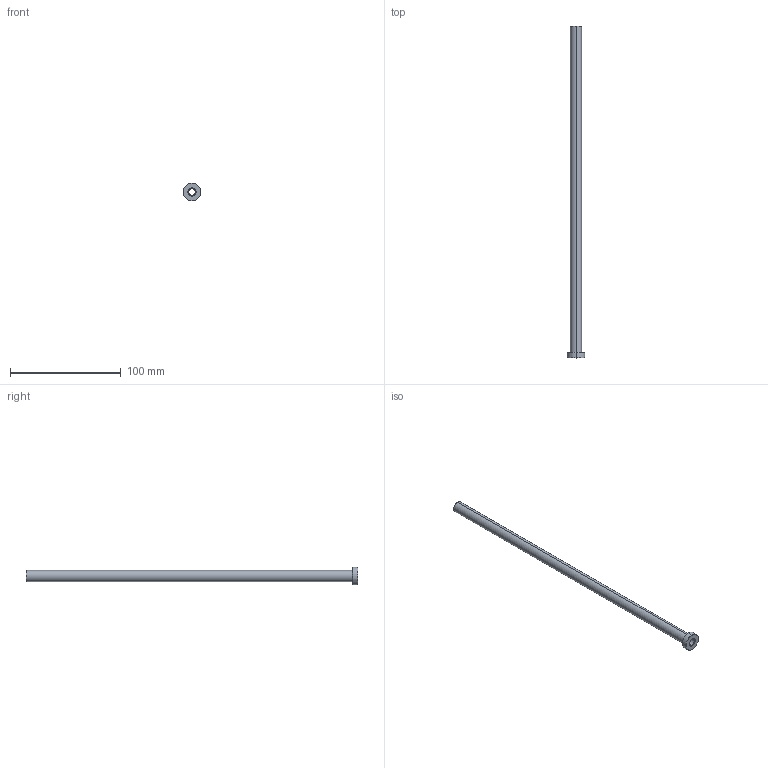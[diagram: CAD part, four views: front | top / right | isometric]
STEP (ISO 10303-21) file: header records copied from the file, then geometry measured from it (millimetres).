
FILE_DESCRIPTION (( 'STEP AP203' ), '1' );
FILE_NAME ('ESD06L300.step', '2022-02-05T02:10:58', ( 'Microsoft Corporation' ), ( 'MS' ), 'SwSTEP 2.0', 'SolidWorks 2019', '' );
FILE_SCHEMA (( 'CONFIG_CONTROL_DESIGN' ));
Length unit declared in the file: millimetre
Products named in the file (1): ESD06L300
Bounding box: 16 x 300 x 16 mm (x, y, z)
Volume: 14466.3 mm3; surface area: 15884.2 mm2
Topology: 1 solids, 1 shells, 21 faces, 42 edges, 24 vertices
Faces by surface type: cone 8, cylinder 8, plane 3, torus 2
Entity records: 627 total; most frequent: DIRECTION 112, CARTESIAN_POINT 88, ORIENTED_EDGE 84, AXIS2_PLACEMENT_3D 48, EDGE_CURVE 42, CIRCLE 26, EDGE_LOOP 24, VERTEX_POINT 24
